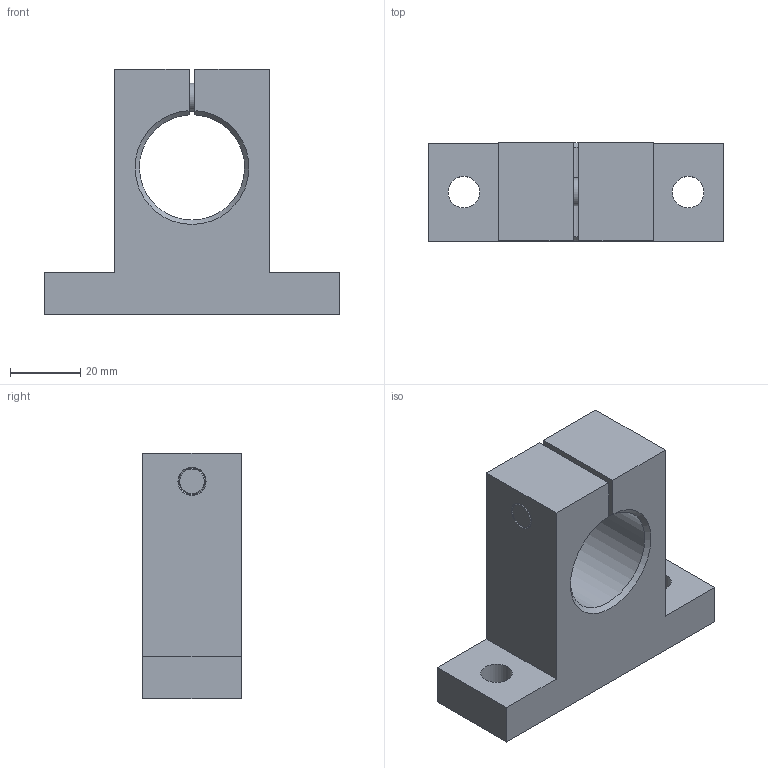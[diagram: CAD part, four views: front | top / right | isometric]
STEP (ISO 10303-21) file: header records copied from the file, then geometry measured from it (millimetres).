
FILE_DESCRIPTION( ( 'Unknown' ), '1' );
FILE_NAME( 'D:/累诀/己绕皋墨飘肺葱胶/11-04-06_档搁累己/04_箕橇飘/SK/SK 30.stp', 'Unknown', ( 'Unknown' ), ( 'Unknown' ), 'PSStep 11.0', 'Unknown', ' ' );
FILE_SCHEMA( ( 'AUTOMOTIVE_DESIGN { 1 0 10303 214 1 1 1 1 }' ) );
Length unit declared in the file: millimetre
Products named in the file (1): 1
Bounding box: 84 x 28 x 70 mm (x, y, z)
Volume: 77632.3 mm3; surface area: 18193.8 mm2
Topology: 1 solids, 1 shells, 38 faces, 93 edges, 62 vertices
Faces by surface type: plane 24, cylinder 8, cone 5, torus 1
Full cylindrical faces by diameter (mm): 3.12 x1, 8 x2, 9 x3, 9.18 x1
Entity records: 1368 total; most frequent: CARTESIAN_POINT 188, DIRECTION 174, ORIENTED_EDGE 156, EDGE_CURVE 78, AXIS2_PLACEMENT_3D 61, EDGE_LOOP 60, VERTEX_POINT 59, LINE 52
